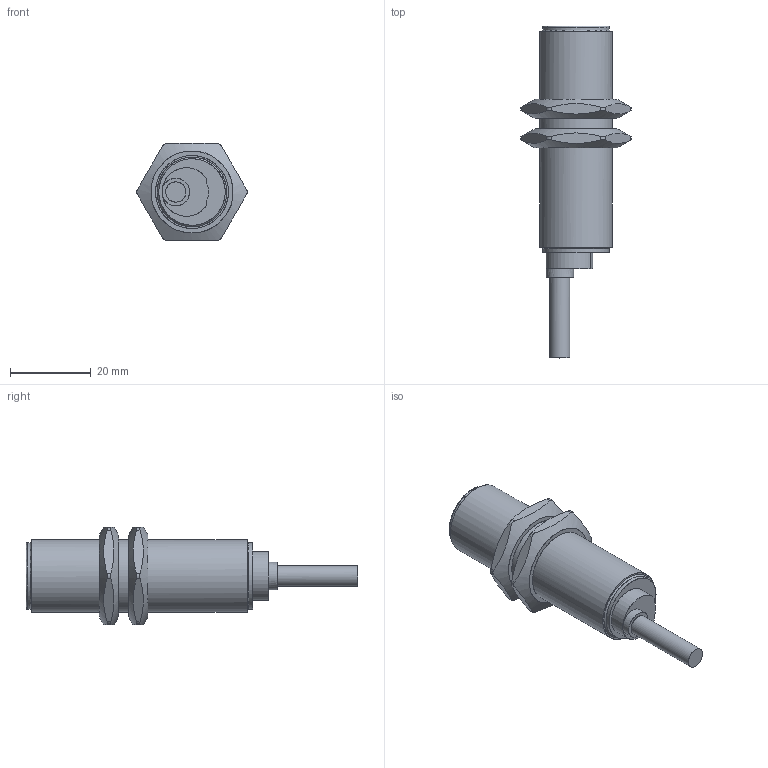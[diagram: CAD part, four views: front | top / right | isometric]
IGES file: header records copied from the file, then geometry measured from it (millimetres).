
Global section: file name: H:\lem\3DCAD_IS_118_MM_xNx_8E0.igs; native system: NX V11.0; preprocessor: SIEMENS PLM Software NX 11.0; date: 20190430.150314; units: millimetre
Bounding box: 27.25 x 82 x 23.97 mm (x, y, z)
Surface area: 6072.8 mm2 (no closed solid volume)
Topology: 0 solids, 0 shells, 53 faces, 505 edges, 491 vertices
Faces by surface type: bspline 53
